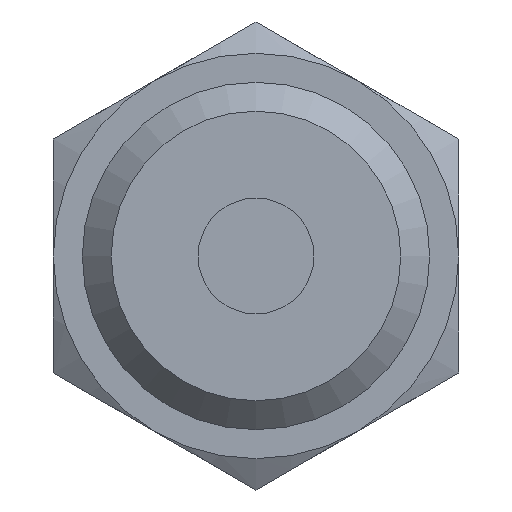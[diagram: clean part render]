
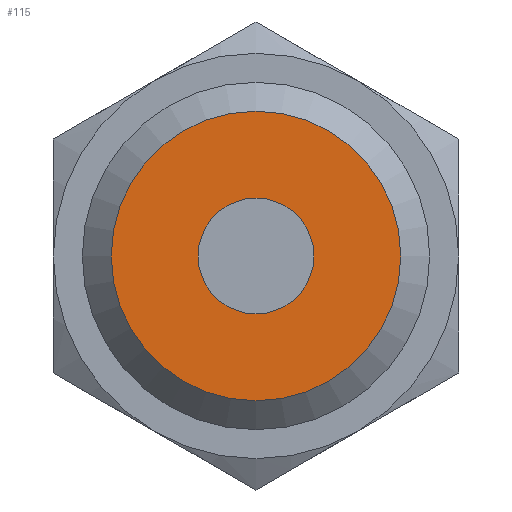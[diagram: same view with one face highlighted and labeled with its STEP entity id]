
A CAD part, front view. The second image highlights one B-rep face of the part: STEP entity #115.
In plain terms, the highlighted planar face has unit normal (0, -1, 0).
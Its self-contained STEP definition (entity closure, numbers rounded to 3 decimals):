
#73=CARTESIAN_POINT('',(2.0,-30.5,0.));
#74=VERTEX_POINT('',#73);
#75=CARTESIAN_POINT('',(0.0,-30.5,0.0));
#76=DIRECTION('',(0.0,1.0,0.0));
#77=DIRECTION('',(-1.0,0.0,0.0));
#78=AXIS2_PLACEMENT_3D('',#75,#76,#77);
#79=CIRCLE('',#78,2.0);
#80=EDGE_CURVE('',#74,#74,#79,.T.);
#96=CARTESIAN_POINT('',(-2.5,-30.5,0.0));
#97=DIRECTION('',(0.0,-1.0,0.0));
#98=DIRECTION('',(0.0,0.0,-1.0));
#99=AXIS2_PLACEMENT_3D('',#96,#97,#98);
#100=PLANE('',#99);
#101=CARTESIAN_POINT('',(-5.,-30.5,0.0));
#102=VERTEX_POINT('',#101);
#103=CARTESIAN_POINT('',(0.0,-30.5,0.0));
#104=DIRECTION('',(0.0,1.0,0.0));
#105=DIRECTION('',(-1.0,0.0,0.0));
#106=AXIS2_PLACEMENT_3D('',#103,#104,#105);
#107=CIRCLE('',#106,5.);
#108=EDGE_CURVE('',#102,#102,#107,.T.);
#109=ORIENTED_EDGE('',*,*,#108,.F.);
#110=EDGE_LOOP('',(#109));
#111=FACE_OUTER_BOUND('',#110,.T.);
#112=ORIENTED_EDGE('',*,*,#80,.T.);
#113=EDGE_LOOP('',(#112));
#114=FACE_BOUND('',#113,.T.);
#115=ADVANCED_FACE('',(#111,#114),#100,.T.);
